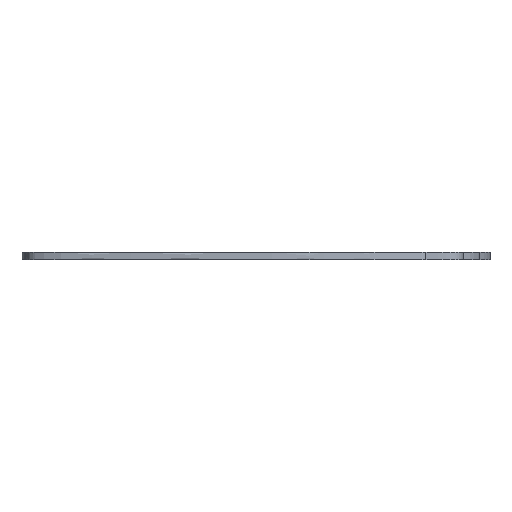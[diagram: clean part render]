
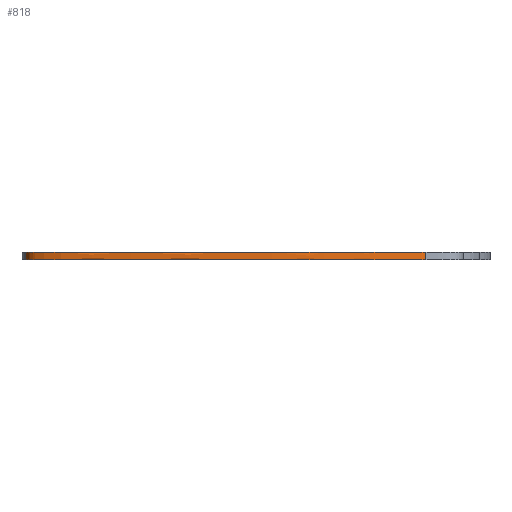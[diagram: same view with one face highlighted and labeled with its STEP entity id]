
A CAD part, front view. The second image highlights one B-rep face of the part: STEP entity #818.
In plain terms, the highlighted face is a extrusion surface.
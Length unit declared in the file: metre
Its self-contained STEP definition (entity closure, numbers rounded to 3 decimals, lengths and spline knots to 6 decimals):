
#818=ADVANCED_FACE('',(#2027),#2028,.T.);
#2027=FACE_OUTER_BOUND('',#4098,.T.);
#2028=SURFACE_OF_LINEAR_EXTRUSION('',#4099,#4100);
#4098=EDGE_LOOP('',(#7119,#7120,#7121,#7122));
#4099=B_SPLINE_CURVE_WITH_KNOTS('',3,(#7123,#7124,#7125,#7126,#7127,#7128,#7129,#7130,#7131,#7132,#7133,#7134,#7135,#7136,#7137,#7138,#7139,#7140),.UNSPECIFIED.,.F.,.F.,(4,1,1,1,1,1,1,1,1,1,1,1,1,1,1,4),(0.693534,0.694092,0.695506,0.698636,0.705385,0.728448,0.770192,0.824,0.87447,0.904732,0.913216,0.922231,0.930209,0.944994,0.959669,0.973835),.UNSPECIFIED.);
#4100=VECTOR('',#7141,1.0);
#7119=ORIENTED_EDGE('',*,*,#13776,.F.);
#7120=ORIENTED_EDGE('',*,*,#13777,.F.);
#7121=ORIENTED_EDGE('',*,*,#13778,.T.);
#7122=ORIENTED_EDGE('',*,*,#13779,.T.);
#7123=CARTESIAN_POINT('',(0.61999,0.242158,0.0));
#7124=CARTESIAN_POINT('',(0.619887,0.242078,0.0));
#7125=CARTESIAN_POINT('',(0.619524,0.241796,0.0));
#7126=CARTESIAN_POINT('',(0.618508,0.241161,0.0));
#7127=CARTESIAN_POINT('',(0.615973,0.24037,0.0));
#7128=CARTESIAN_POINT('',(0.608566,0.238375,0.0));
#7129=CARTESIAN_POINT('',(0.592192,0.234913,0.0));
#7130=CARTESIAN_POINT('',(0.564628,0.231822,0.0));
#7131=CARTESIAN_POINT('',(0.530422,0.232424,0.0));
#7132=CARTESIAN_POINT('',(0.49932,0.236769,0.0));
#7133=CARTESIAN_POINT('',(0.478681,0.239775,0.0));
#7134=CARTESIAN_POINT('',(0.468466,0.24536,0.0));
#7135=CARTESIAN_POINT('',(0.466818,0.251998,0.0));
#7136=CARTESIAN_POINT('',(0.471387,0.258712,0.0));
#7137=CARTESIAN_POINT('',(0.480713,0.259916,0.0));
#7138=CARTESIAN_POINT('',(0.490636,0.261048,0.0));
#7139=CARTESIAN_POINT('',(0.497396,0.261189,0.0));
#7140=CARTESIAN_POINT('',(0.500716,0.261258,0.0));
#7141=DIRECTION('',(0.,0.,-1.0));
#13776=EDGE_CURVE('',#18231,#18232,#18233,.T.);
#13777=EDGE_CURVE('',#18234,#18231,#18235,.T.);
#13778=EDGE_CURVE('',#18234,#18236,#18237,.T.);
#13779=EDGE_CURVE('',#18236,#18232,#18238,.T.);
#18231=VERTEX_POINT('',#21368);
#18232=VERTEX_POINT('',#21369);
#18233=B_SPLINE_CURVE_WITH_KNOTS('',3,(#21370,#21371,#21372,#21373,#21374,#21375,#21376,#21377,#21378,#21379,#21380,#21381,#21382,#21383,#21384,#21385,#21386,#21387),.UNSPECIFIED.,.F.,.F.,(4,1,1,1,1,1,1,1,1,1,1,1,1,1,1,4),(0.693534,0.694092,0.695506,0.698636,0.705385,0.728448,0.770192,0.824,0.87447,0.904732,0.913216,0.922231,0.930209,0.944994,0.959669,0.973835),.UNSPECIFIED.);
#18234=VERTEX_POINT('',#21388);
#18235=LINE('',#21389,#21390);
#18236=VERTEX_POINT('',#21391);
#18237=B_SPLINE_CURVE_WITH_KNOTS('',3,(#21392,#21393,#21394,#21395,#21396,#21397,#21398,#21399,#21400,#21401,#21402,#21403,#21404,#21405,#21406,#21407,#21408,#21409),.UNSPECIFIED.,.F.,.F.,(4,1,1,1,1,1,1,1,1,1,1,1,1,1,1,4),(0.693534,0.694092,0.695506,0.698636,0.705385,0.728448,0.770192,0.824,0.87447,0.904732,0.913216,0.922231,0.930209,0.944994,0.959669,0.973835),.UNSPECIFIED.);
#18238=LINE('',#21410,#21411);
#21368=CARTESIAN_POINT('',(0.61999,0.242158,-0.003));
#21369=CARTESIAN_POINT('',(0.500716,0.261258,-0.003));
#21370=CARTESIAN_POINT('',(0.61999,0.242158,-0.003));
#21371=CARTESIAN_POINT('',(0.619887,0.242078,-0.003));
#21372=CARTESIAN_POINT('',(0.619524,0.241796,-0.003));
#21373=CARTESIAN_POINT('',(0.618508,0.241161,-0.003));
#21374=CARTESIAN_POINT('',(0.615973,0.24037,-0.003));
#21375=CARTESIAN_POINT('',(0.608566,0.238375,-0.003));
#21376=CARTESIAN_POINT('',(0.592192,0.234913,-0.003));
#21377=CARTESIAN_POINT('',(0.564628,0.231822,-0.003));
#21378=CARTESIAN_POINT('',(0.530422,0.232424,-0.003));
#21379=CARTESIAN_POINT('',(0.49932,0.236769,-0.003));
#21380=CARTESIAN_POINT('',(0.478681,0.239775,-0.003));
#21381=CARTESIAN_POINT('',(0.468466,0.24536,-0.003));
#21382=CARTESIAN_POINT('',(0.466818,0.251998,-0.003));
#21383=CARTESIAN_POINT('',(0.471387,0.258712,-0.003));
#21384=CARTESIAN_POINT('',(0.480713,0.259916,-0.003));
#21385=CARTESIAN_POINT('',(0.490636,0.261048,-0.003));
#21386=CARTESIAN_POINT('',(0.497396,0.261189,-0.003));
#21387=CARTESIAN_POINT('',(0.500716,0.261258,-0.003));
#21388=CARTESIAN_POINT('',(0.61999,0.242158,0.0));
#21389=CARTESIAN_POINT('',(0.61999,0.242158,0.0));
#21390=VECTOR('',#29079,1.0);
#21391=CARTESIAN_POINT('',(0.500716,0.261258,0.0));
#21392=CARTESIAN_POINT('',(0.61999,0.242158,0.0));
#21393=CARTESIAN_POINT('',(0.619887,0.242078,0.0));
#21394=CARTESIAN_POINT('',(0.619524,0.241796,0.0));
#21395=CARTESIAN_POINT('',(0.618508,0.241161,0.0));
#21396=CARTESIAN_POINT('',(0.615973,0.24037,0.0));
#21397=CARTESIAN_POINT('',(0.608566,0.238375,0.0));
#21398=CARTESIAN_POINT('',(0.592192,0.234913,0.0));
#21399=CARTESIAN_POINT('',(0.564628,0.231822,0.0));
#21400=CARTESIAN_POINT('',(0.530422,0.232424,0.0));
#21401=CARTESIAN_POINT('',(0.49932,0.236769,0.0));
#21402=CARTESIAN_POINT('',(0.478681,0.239775,0.0));
#21403=CARTESIAN_POINT('',(0.468466,0.24536,0.0));
#21404=CARTESIAN_POINT('',(0.466818,0.251998,0.0));
#21405=CARTESIAN_POINT('',(0.471387,0.258712,0.0));
#21406=CARTESIAN_POINT('',(0.480713,0.259916,0.0));
#21407=CARTESIAN_POINT('',(0.490636,0.261048,0.0));
#21408=CARTESIAN_POINT('',(0.497396,0.261189,0.0));
#21409=CARTESIAN_POINT('',(0.500716,0.261258,0.0));
#21410=CARTESIAN_POINT('',(0.500716,0.261258,0.0));
#21411=VECTOR('',#29080,1.0);
#29079=DIRECTION('',(0.,0.,-1.0));
#29080=DIRECTION('',(0.,0.,-1.0));
